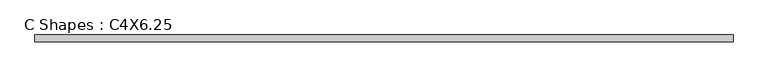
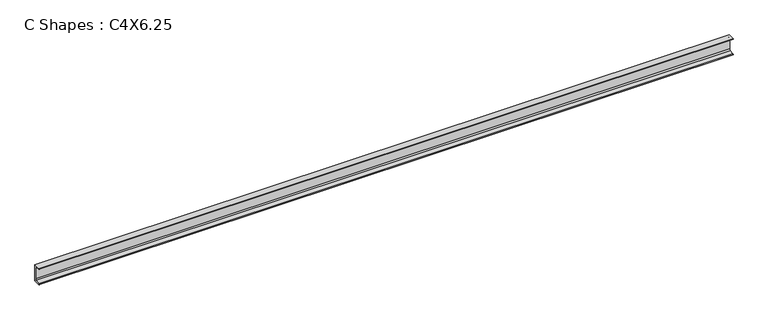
"""IFC4 building model written with IfcOpenShell, lengths in millimetres: beam geometry, C Shapes : C4X6.25."""

from ifc_helpers import new_model, si_unit, point, frame, frame_2d, origin, place, context, project, spatial, polyline, circle_curve, trimmed, segment, composite_curve, outline, extrude, source, transform, mapped, element, save


def c_shapes_c4x6_25_1e92d3b5(model_context):
    return source(origin(), model_context, "Body", "SweptSolid", [
        extrude(outline(composite_curve([segment(polyline([(11.049, 50.8), (11.049, -50.8), (-30.861, -50.8), (-30.861, -49.7865772)]), True, "CONTINUOUS"), segment(trimmed(circle_curve(frame_2d((-27.4066, -49.7865772)), 3.4544), [point((-30.861, -49.7865772))], [point((-27.9743618, -46.379155))], False, "CARTESIAN"), True, "CONTINUOUS"), segment(polyline([(-27.9743618, -46.379155), (-0.9980765, -41.8842311)]), True, "CONTINUOUS"), segment(trimmed(circle_curve(frame_2d((-2.1336, -35.0693868)), 6.9088), [point((-0.9980765, -41.8842311))], [point((4.7752, -35.0693868))], True, "CARTESIAN"), True, "CONTINUOUS"), segment(polyline([(4.7752, -35.0693868), (4.7752, 35.0693868)]), True, "CONTINUOUS"), segment(trimmed(circle_curve(frame_2d((-2.1336, 35.0693868)), 6.9088), [point((4.7752, 35.0693868))], [point((-0.9980765, 41.8842311))], True, "CARTESIAN"), True, "CONTINUOUS"), segment(polyline([(-0.9980765, 41.8842311), (-27.9743618, 46.379155)]), True, "CONTINUOUS"), segment(trimmed(circle_curve(frame_2d((-27.4066, 49.7865772)), 3.4544), [point((-27.9743618, 46.379155))], [point((-30.861, 49.7865772))], False, "CARTESIAN"), True, "CONTINUOUS"), segment(polyline([(-30.861, 49.7865772), (-30.861, 50.8), (11.049, 50.8)]), True, "CONTINUOUS")], self_intersect=False)), frame((-2091.4904285, 0.0, 0.0), z_axis=(1.0, 0.0, 0.0), x_axis=(0.0, 1.0, 0.0)), (0.0, 0.0, 1.0), 4182.980857),
    ])


if __name__ == "__main__":
    model = new_model("IFC4")
    model_context = context("Model", 3, world=origin())
    ifc_project = project(units=[si_unit("LENGTHUNIT", "METRE", prefix="MILLI")], contexts=[model_context])
    site = spatial("IfcSite", under=ifc_project)
    building = spatial("IfcBuilding", under=site)
    placement = place(None, origin())
    c_shapes_c4x6_25_shape = c_shapes_c4x6_25_1e92d3b5(model_context)
    element("IfcBeam", 1, ObjectType="C Shapes : C4X6.25", at=placement, inside=building, context=model_context, shape_type="MappedRepresentation", body=[
        mapped(c_shapes_c4x6_25_shape, transform((0.0, 0.0, 0.0), x_axis=(1.0, 0.0, 0.0), y_axis=(0.0, 1.0, 0.0), z_axis=(0.0, 0.0, 1.0))),
    ])
    save(model, "model.ifc")
